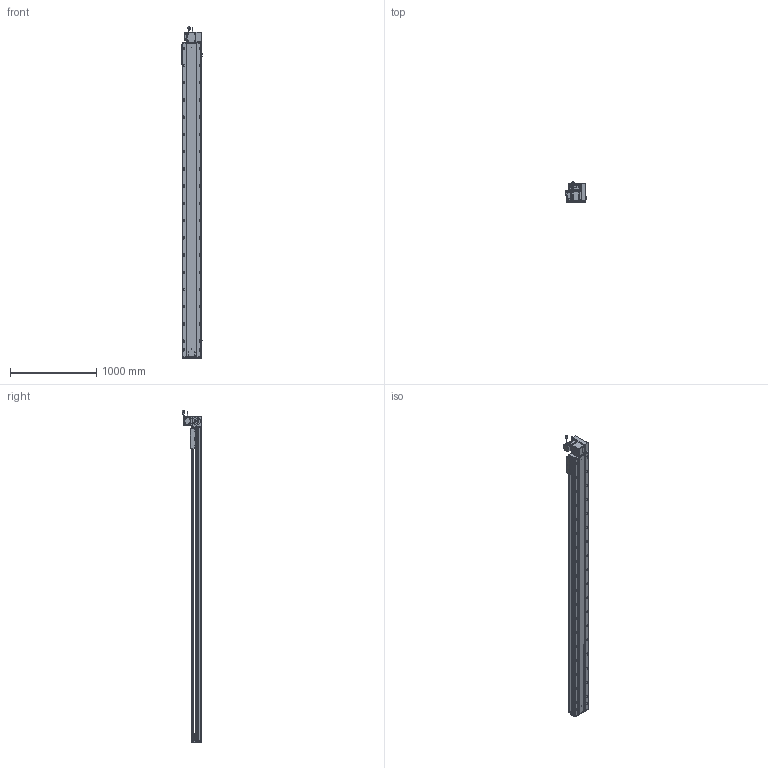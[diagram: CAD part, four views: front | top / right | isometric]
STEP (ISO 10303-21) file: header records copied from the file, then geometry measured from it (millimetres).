
FILE_DESCRIPTION (( 'STEP AP203' ), '1' );
FILE_NAME ('RY220-T-300-UR.SLDASM_3300.step', '2022-07-25T08:46:36', ( '' ), ( '' ), 'SwSTEP 2.0', 'SolidWorks 2016', '' );
FILE_SCHEMA (( 'CONFIG_CONTROL_DESIGN' ));
Length unit declared in the file: millimetre
Products named in the file (14): RY220-T-300-UR.SLDASM_3300; RY220圉猾敕々湍臏賑輸; 110A-T-肮祭謫釱傷裔; RY220-T-蛌殏萇儂假蚾啣(750W); RY220翋肮祭謫裔啣; 覜茼ん672; 怢湛750W_ECMA-CX0807ES; RY220-T-湍謫欶(鍼踢); 滅袉蝶18-15; RY220翋肮祭謫釱; RY220-T-300-奻裔啣_3300; RY220-T菁釱-300_3300; RY220-同步轮副支撑座6304×2; RY220-俋离672覜茼んえ
Assembly tree (18 placements, depth 2):
  RY220-T-300-UR.SLDASM_3300
    RY220-T菁釱-300_3300
    RY220翋肮祭謫釱
    覜茼ん672  x3
    RY220圉猾敕々湍臏賑輸
    RY220-T-300-奻裔啣_3300
    RY220-俋离672覜茼んえ
    滅袉蝶18-15  x3
    RY220翋肮祭謫裔啣  x2
    110A-T-肮祭謫釱傷裔
    怢湛750W_ECMA-CX0807ES
    RY220-T-湍謫欶(鍼踢)
    RY220-T-蛌殏萇儂假蚾啣(750W)
    RY220-同步轮副支撑座6304×2
Bounding box: 238.7 x 231.74 x 3853.27 mm (x, y, z)
Volume: 27143151.8 mm3; surface area: 8432319.8 mm2
Topology: 19 solids, 19 shells, 3096 faces, 8571 edges, 5354 vertices
Faces by surface type: cylinder 1544, plane 1069, cone 401, bspline 56, sphere 16, torus 10
Entity records: 103347 total; most frequent: CARTESIAN_POINT 29097, ORIENTED_EDGE 15322, DIRECTION 14860, EDGE_CURVE 7661, AXIS2_PLACEMENT_3D 5386, VERTEX_POINT 4978, VECTOR 4088, LINE 4088
